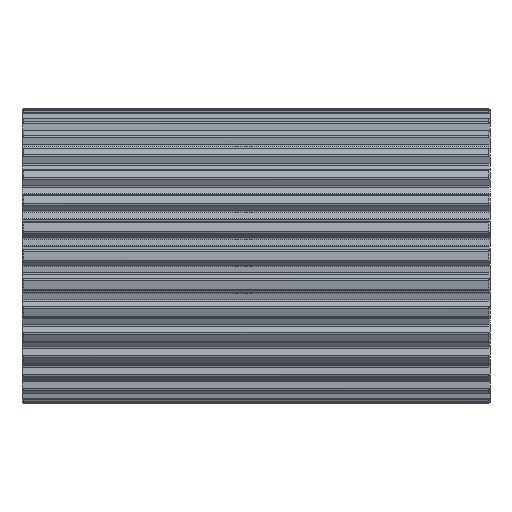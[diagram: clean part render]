
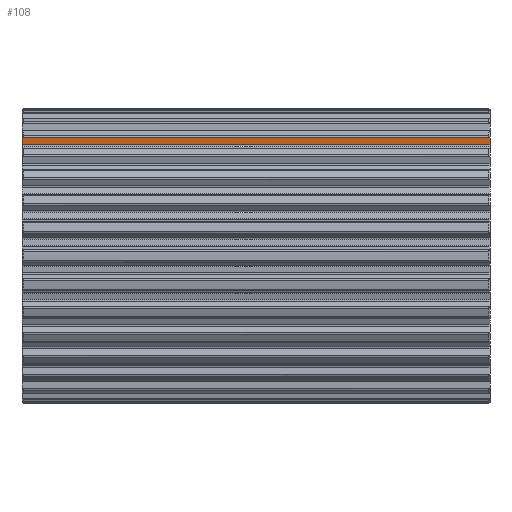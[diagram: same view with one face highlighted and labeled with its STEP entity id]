
A CAD part, front view. The second image highlights one B-rep face of the part: STEP entity #108.
In plain terms, the highlighted planar face has unit normal (0, -0.988, -0.152).
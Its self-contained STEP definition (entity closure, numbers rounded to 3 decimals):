
#108=ADVANCED_FACE('',(#509),#510,.T.);
#509=FACE_OUTER_BOUND('',#1187,.T.);
#510=PLANE('',#1188);
#1187=EDGE_LOOP('',(#2245,#2246,#2247,#2248,#2249,#2250));
#1188=AXIS2_PLACEMENT_3D('',#2251,#2252,#2253);
#2245=ORIENTED_EDGE('',*,*,#4936,.T.);
#2246=ORIENTED_EDGE('',*,*,#5020,.F.);
#2247=ORIENTED_EDGE('',*,*,#5021,.T.);
#2248=ORIENTED_EDGE('',*,*,#5022,.T.);
#2249=ORIENTED_EDGE('',*,*,#5023,.T.);
#2250=ORIENTED_EDGE('',*,*,#5018,.F.);
#2251=CARTESIAN_POINT('',(0.0,-29.292,39.2));
#2252=DIRECTION('',(0.,-0.988,-0.152));
#2253=DIRECTION('',(0.,0.152,-0.988));
#4936=EDGE_CURVE('',#6111,#6109,#6112,.T.);
#5018=EDGE_CURVE('',#6111,#6260,#6261,.T.);
#5020=EDGE_CURVE('',#6263,#6109,#6264,.T.);
#5021=EDGE_CURVE('',#6263,#6265,#6266,.T.);
#5022=EDGE_CURVE('',#6265,#6267,#6268,.T.);
#5023=EDGE_CURVE('',#6267,#6260,#6269,.T.);
#6109=VERTEX_POINT('',#8615);
#6111=VERTEX_POINT('',#8617);
#6112=(B_SPLINE_CURVE(2,(#8619,#8620,#8621),.UNSPECIFIED.,.F.,.F.)B_SPLINE_CURVE_WITH_KNOTS((3,3),(0.0,0.753),.UNSPECIFIED.)RATIONAL_B_SPLINE_CURVE((1.0,1.,1.0))BOUNDED_CURVE()REPRESENTATION_ITEM('')GEOMETRIC_REPRESENTATION_ITEM()CURVE());
#6260=VERTEX_POINT('',#9080);
#6261=LINE('',#9081,#9082);
#6263=VERTEX_POINT('',#9091);
#6264=LINE('',#9092,#9093);
#6265=VERTEX_POINT('',#9094);
#6266=LINE('',#9095,#9096);
#6267=VERTEX_POINT('',#9097);
#6268=LINE('',#9098,#9099);
#6269=(B_SPLINE_CURVE(2,(#9101,#9102,#9103),.UNSPECIFIED.,.F.,.F.)B_SPLINE_CURVE_WITH_KNOTS((3,3),(0.0,0.753),.UNSPECIFIED.)RATIONAL_B_SPLINE_CURVE((1.0,1.,1.0))BOUNDED_CURVE()REPRESENTATION_ITEM('')GEOMETRIC_REPRESENTATION_ITEM()CURVE());
#8615=CARTESIAN_POINT('',(0.0,-29.462,40.305));
#8617=CARTESIAN_POINT('',(0.081,-29.476,40.395));
#8619=CARTESIAN_POINT('',(0.5,-29.548,40.861));
#8620=CARTESIAN_POINT('',(0.248,-29.505,40.581));
#8621=CARTESIAN_POINT('',(0.0,-29.462,40.305));
#9080=CARTESIAN_POINT('',(159.919,-29.476,40.395));
#9081=CARTESIAN_POINT('',(0.0,-29.476,40.395));
#9082=VECTOR('',#11816,1.0);
#9091=CARTESIAN_POINT('',(0.0,-29.108,38.005));
#9092=CARTESIAN_POINT('',(0.0,-29.108,38.005));
#9093=VECTOR('',#11817,1.0);
#9094=CARTESIAN_POINT('',(160.0,-29.108,38.005));
#9095=CARTESIAN_POINT('',(0.0,-29.108,38.005));
#9096=VECTOR('',#11818,1.0);
#9097=CARTESIAN_POINT('',(160.0,-29.462,40.305));
#9098=CARTESIAN_POINT('',(160.0,-29.108,38.005));
#9099=VECTOR('',#11819,1.0);
#9101=CARTESIAN_POINT('',(160.0,-29.462,40.305));
#9102=CARTESIAN_POINT('',(159.752,-29.505,40.581));
#9103=CARTESIAN_POINT('',(159.5,-29.548,40.861));
#11816=DIRECTION('',(1.0,0.,0.));
#11817=DIRECTION('',(0.,-0.152,0.988));
#11818=DIRECTION('',(1.0,0.,0.));
#11819=DIRECTION('',(0.,-0.152,0.988));
